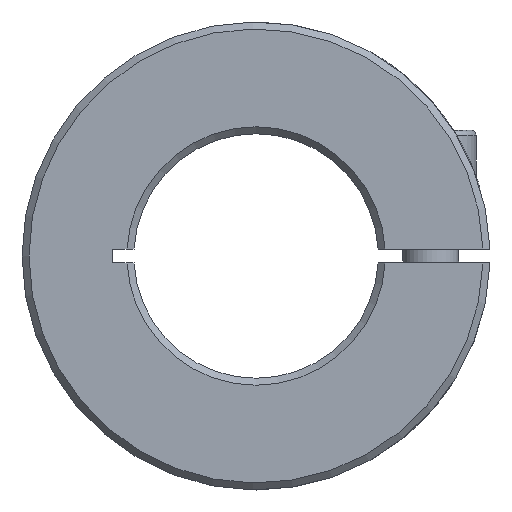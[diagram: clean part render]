
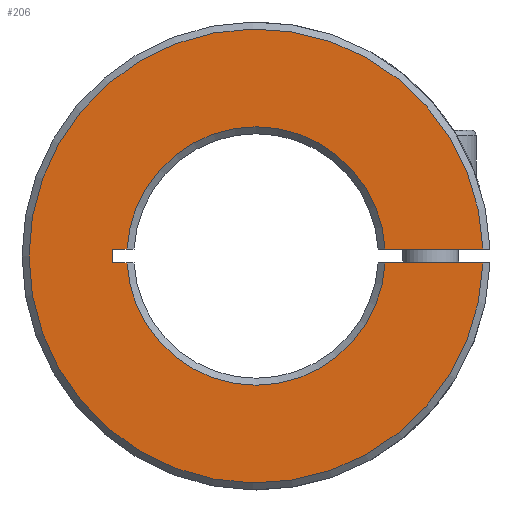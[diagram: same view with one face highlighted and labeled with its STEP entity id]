
A CAD part, front view. The second image highlights one B-rep face of the part: STEP entity #206.
In plain terms, the highlighted planar face has unit normal (0, -1, 0).
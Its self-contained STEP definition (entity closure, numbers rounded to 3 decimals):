
#206 = ADVANCED_FACE( '', ( #419 ), #420, .F. );
#419 = FACE_OUTER_BOUND( '', #667, .T. );
#420 = PLANE( '', #668 );
#667 = EDGE_LOOP( '', ( #994, #995, #996, #997, #998, #999, #1000, #1001 ) );
#668 = AXIS2_PLACEMENT_3D( '', #1002, #1003, #1004 );
#994 = ORIENTED_EDGE( '', *, *, #1435, .T. );
#995 = ORIENTED_EDGE( '', *, *, #1401, .T. );
#996 = ORIENTED_EDGE( '', *, *, #1379, .T. );
#997 = ORIENTED_EDGE( '', *, *, #1391, .T. );
#998 = ORIENTED_EDGE( '', *, *, #1436, .F. );
#999 = ORIENTED_EDGE( '', *, *, #1349, .T. );
#1000 = ORIENTED_EDGE( '', *, *, #1437, .F. );
#1001 = ORIENTED_EDGE( '', *, *, #1438, .F. );
#1002 = CARTESIAN_POINT( '', ( 0., -95., 0. ) );
#1003 = DIRECTION( '', ( 0., 1., 0. ) );
#1004 = DIRECTION( '', ( 0., 0., 1. ) );
#1349 = EDGE_CURVE( '', #1548, #1552, #1554, .T. );
#1379 = EDGE_CURVE( '', #1602, #1603, #1604, .T. );
#1391 = EDGE_CURVE( '', #1603, #1622, #1625, .F. );
#1401 = EDGE_CURVE( '', #1638, #1602, #1641, .T. );
#1435 = EDGE_CURVE( '', #1698, #1638, #1699, .T. );
#1436 = EDGE_CURVE( '', #1548, #1622, #1700, .T. );
#1437 = EDGE_CURVE( '', #1701, #1552, #1702, .T. );
#1438 = EDGE_CURVE( '', #1698, #1701, #1703, .T. );
#1548 = VERTEX_POINT( '', #1834 );
#1552 = VERTEX_POINT( '', #1841 );
#1554 = CIRCLE( '', #1846, 18.5 );
#1602 = VERTEX_POINT( '', #1999 );
#1603 = VERTEX_POINT( '', #2000 );
#1604 = LINE( '', #2001, #2002 );
#1622 = VERTEX_POINT( '', #2029 );
#1625 = CIRCLE( '', #2035, 32.5 );
#1638 = VERTEX_POINT( '', #2052 );
#1641 = CIRCLE( '', #2058, 18.5 );
#1698 = VERTEX_POINT( '', #2345 );
#1699 = LINE( '', #2346, #2347 );
#1700 = LINE( '', #2348, #2349 );
#1701 = VERTEX_POINT( '', #2350 );
#1702 = LINE( '', #2351, #2352 );
#1703 = LINE( '', #2353, #2354 );
#1834 = CARTESIAN_POINT( '', ( 18.473, -95., -1. ) );
#1841 = CARTESIAN_POINT( '', ( -18.473, -95., -1. ) );
#1846 = AXIS2_PLACEMENT_3D( '', #2885, #2886, #2887 );
#1999 = CARTESIAN_POINT( '', ( 18.473, -95., 1. ) );
#2000 = CARTESIAN_POINT( '', ( 32.485, -95., 1. ) );
#2001 = CARTESIAN_POINT( '', ( 0., -95., 1. ) );
#2002 = VECTOR( '', #2921, 1000. );
#2029 = CARTESIAN_POINT( '', ( 32.485, -95., -1. ) );
#2035 = AXIS2_PLACEMENT_3D( '', #2934, #2935, #2936 );
#2052 = CARTESIAN_POINT( '', ( -18.473, -95., 1. ) );
#2058 = AXIS2_PLACEMENT_3D( '', #2947, #2948, #2949 );
#2345 = CARTESIAN_POINT( '', ( -20.5, -95., 1. ) );
#2346 = CARTESIAN_POINT( '', ( 0., -95., 1. ) );
#2347 = VECTOR( '', #2991, 1000. );
#2348 = CARTESIAN_POINT( '', ( 0., -95., -1. ) );
#2349 = VECTOR( '', #2992, 1000. );
#2350 = CARTESIAN_POINT( '', ( -20.5, -95., -1. ) );
#2351 = CARTESIAN_POINT( '', ( 0., -95., -1. ) );
#2352 = VECTOR( '', #2993, 1000. );
#2353 = CARTESIAN_POINT( '', ( -20.5, -95., 0. ) );
#2354 = VECTOR( '', #2994, 1000. );
#2885 = CARTESIAN_POINT( '', ( 0., -95., 0. ) );
#2886 = DIRECTION( '', ( 0., 1., 0. ) );
#2887 = DIRECTION( '', ( 0., 0., 1. ) );
#2921 = DIRECTION( '', ( 1., 0., 0. ) );
#2934 = CARTESIAN_POINT( '', ( 0., -95., 0. ) );
#2935 = DIRECTION( '', ( 0., 1., 0. ) );
#2936 = DIRECTION( '', ( 0., 0., 1. ) );
#2947 = CARTESIAN_POINT( '', ( 0., -95., 0. ) );
#2948 = DIRECTION( '', ( 0., 1., 0. ) );
#2949 = DIRECTION( '', ( 0., 0., 1. ) );
#2991 = DIRECTION( '', ( 1., 0., 0. ) );
#2992 = DIRECTION( '', ( 1., 0., 0. ) );
#2993 = DIRECTION( '', ( 1., 0., 0. ) );
#2994 = DIRECTION( '', ( 0., 0., -1. ) );
